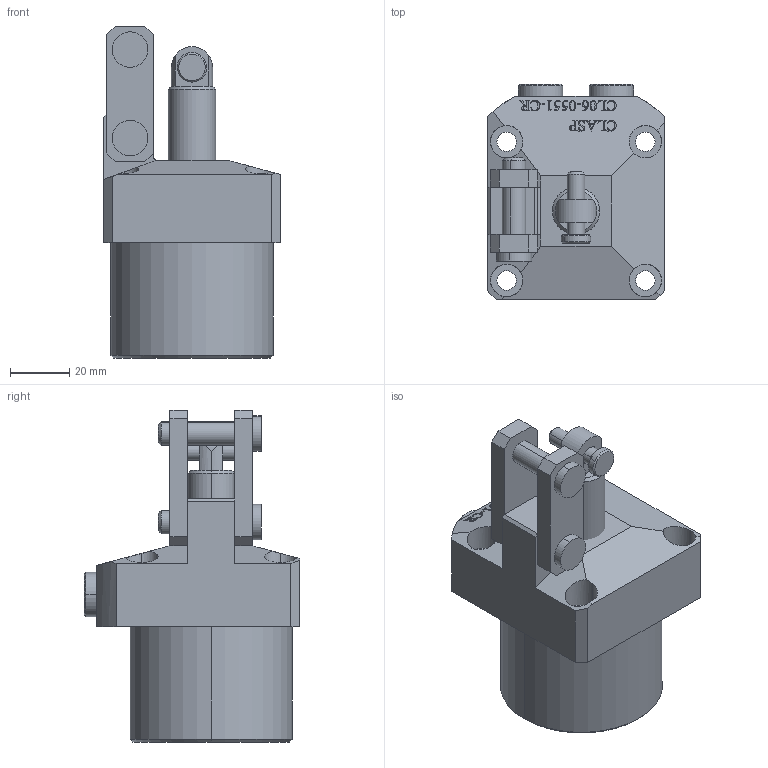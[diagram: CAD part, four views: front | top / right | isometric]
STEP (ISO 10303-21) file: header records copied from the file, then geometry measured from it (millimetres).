
FILE_DESCRIPTION (( 'STEP AP203' ), '1' );
FILE_NAME ('CL06-0551-CR.STEP', '2022-07-17T16:24:56', ( '' ), ( '' ), 'SwSTEP 2.0', 'SolidWorks 2017', '' );
FILE_SCHEMA (( 'CONFIG_CONTROL_DESIGN' ));
Length unit declared in the file: millimetre
Products named in the file (7): CL06.-0551 CR Body; CLO6-0551 Part3 CR; CLO6-0551 Part2 CR; CLO6-0551 Part6 CR; CLO6-0551 Part7 CR; CL06-0551 Part5 CR; CL06-0551-CR
Assembly tree (9 placements, depth 2):
  CL06-0551-CR
    CL06.-0551 CR Body
    CLO6-0551 Part3 CR
    CLO6-0551 Part2 CR  x2
    CLO6-0551 Part6 CR  x2
    CLO6-0551 Part7 CR
    CL06-0551 Part5 CR  x2
Bounding box: 60 x 73 x 112.5 mm (x, y, z)
Volume: 213594.8 mm3; surface area: 37360.3 mm2
Topology: 9 solids, 9 shells, 497 faces, 1293 edges, 848 vertices
Faces by surface type: plane 217, bspline 177, cylinder 73, cone 30
Entity records: 21966 total; most frequent: CARTESIAN_POINT 10946, ORIENTED_EDGE 2410, DIRECTION 1550, EDGE_CURVE 1205, VERTEX_POINT 794, LINE 694, VECTOR 694, EDGE_LOOP 511
